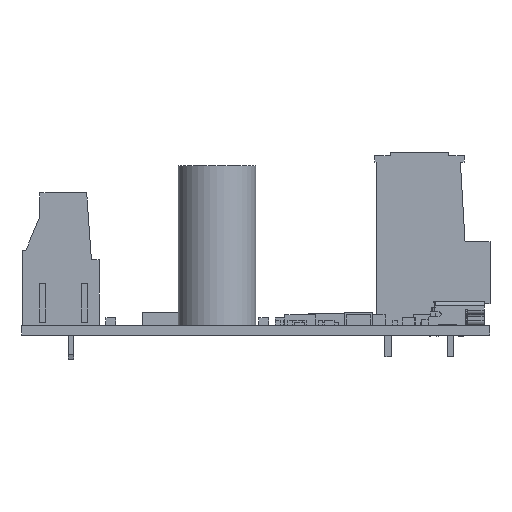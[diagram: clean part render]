
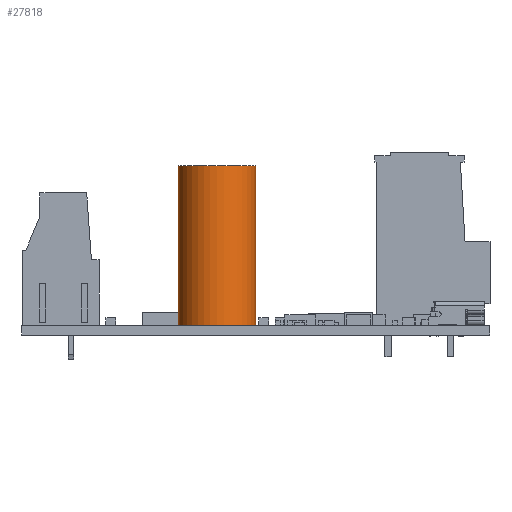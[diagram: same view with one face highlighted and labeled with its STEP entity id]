
A CAD part, left-side view. The second image highlights one B-rep face of the part: STEP entity #27818.
In plain terms, the highlighted cylindrical face has radius 6.35 mm (diameter 12.7 mm), a full revolution.
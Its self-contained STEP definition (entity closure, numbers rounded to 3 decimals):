
#27818 = ADVANCED_FACE('',(#27819),#27833,.T.);
#27819 = FACE_BOUND('',#27820,.T.);
#27820 = EDGE_LOOP('',(#27821,#27851,#27881,#27882));
#27821 = ORIENTED_EDGE('',*,*,#27822,.F.);
#27822 = EDGE_CURVE('',#27823,#27825,#27827,.T.);
#27823 = VERTEX_POINT('',#27824);
#27824 = CARTESIAN_POINT('',(6.35,0.,0.));
#27825 = VERTEX_POINT('',#27826);
#27826 = CARTESIAN_POINT('',(6.35,0.,26.06));
#27827 = SEAM_CURVE('',#27828,(#27832,#27844),.PCURVE_S1.);
#27828 = LINE('',#27829,#27830);
#27829 = CARTESIAN_POINT('',(6.35,0.,0.));
#27830 = VECTOR('',#27831,1.);
#27831 = DIRECTION('',(0.,0.,1.));
#27832 = PCURVE('',#27833,#27838);
#27833 = CYLINDRICAL_SURFACE('',#27834,6.35);
#27834 = AXIS2_PLACEMENT_3D('',#27835,#27836,#27837);
#27835 = CARTESIAN_POINT('',(0.,0.,0.));
#27836 = DIRECTION('',(0.,0.,-1.));
#27837 = DIRECTION('',(1.,0.,0.));
#27838 = DEFINITIONAL_REPRESENTATION('',(#27839),#27843);
#27839 = LINE('',#27840,#27841);
#27840 = CARTESIAN_POINT('',(6.283,0.));
#27841 = VECTOR('',#27842,1.);
#27842 = DIRECTION('',(0.,-1.));
#27843 = ( GEOMETRIC_REPRESENTATION_CONTEXT(2) 
PARAMETRIC_REPRESENTATION_CONTEXT() REPRESENTATION_CONTEXT('2D SPACE',''
  ) );
#27844 = PCURVE('',#27833,#27845);
#27845 = DEFINITIONAL_REPRESENTATION('',(#27846),#27850);
#27846 = LINE('',#27847,#27848);
#27847 = CARTESIAN_POINT('',(0.,0.));
#27848 = VECTOR('',#27849,1.);
#27849 = DIRECTION('',(0.,-1.));
#27850 = ( GEOMETRIC_REPRESENTATION_CONTEXT(2) 
PARAMETRIC_REPRESENTATION_CONTEXT() REPRESENTATION_CONTEXT('2D SPACE',''
  ) );
#27851 = ORIENTED_EDGE('',*,*,#27852,.T.);
#27852 = EDGE_CURVE('',#27823,#27823,#27853,.T.);
#27853 = SURFACE_CURVE('',#27854,(#27859,#27865),.PCURVE_S1.);
#27854 = CIRCLE('',#27855,6.35);
#27855 = AXIS2_PLACEMENT_3D('',#27856,#27857,#27858);
#27856 = CARTESIAN_POINT('',(0.,0.,0.));
#27857 = DIRECTION('',(0.,0.,1.));
#27858 = DIRECTION('',(1.,0.,0.));
#27859 = PCURVE('',#27833,#27860);
#27860 = DEFINITIONAL_REPRESENTATION('',(#27861),#27864);
#27861 = B_SPLINE_CURVE_WITH_KNOTS('',1,(#27862,#27863),.UNSPECIFIED.,
  .F.,.F.,(2,2),(0.,6.283),.PIECEWISE_BEZIER_KNOTS.);
#27862 = CARTESIAN_POINT('',(6.283,0.));
#27863 = CARTESIAN_POINT('',(0.,0.));
#27864 = ( GEOMETRIC_REPRESENTATION_CONTEXT(2) 
PARAMETRIC_REPRESENTATION_CONTEXT() REPRESENTATION_CONTEXT('2D SPACE',''
  ) );
#27865 = PCURVE('',#27866,#27871);
#27866 = PLANE('',#27867);
#27867 = AXIS2_PLACEMENT_3D('',#27868,#27869,#27870);
#27868 = CARTESIAN_POINT('',(6.35,0.,0.));
#27869 = DIRECTION('',(0.,0.,-1.));
#27870 = DIRECTION('',(-1.,0.,0.));
#27871 = DEFINITIONAL_REPRESENTATION('',(#27872),#27880);
#27872 = ( BOUNDED_CURVE() B_SPLINE_CURVE(2,(#27873,#27874,#27875,#27876
    ,#27877,#27878,#27879),.UNSPECIFIED.,.F.,.F.) 
B_SPLINE_CURVE_WITH_KNOTS((1,2,2,2,2,1),(-2.094,0.,
    2.094,4.189,6.283,8.378),
.UNSPECIFIED.) CURVE() GEOMETRIC_REPRESENTATION_ITEM() 
RATIONAL_B_SPLINE_CURVE((1.,0.5,1.,0.5,1.,0.5,1.)) REPRESENTATION_ITEM(
  '') );
#27873 = CARTESIAN_POINT('',(0.,0.));
#27874 = CARTESIAN_POINT('',(0.,10.999));
#27875 = CARTESIAN_POINT('',(9.525,5.499));
#27876 = CARTESIAN_POINT('',(19.05,0.));
#27877 = CARTESIAN_POINT('',(9.525,-5.499));
#27878 = CARTESIAN_POINT('',(0.,-10.999));
#27879 = CARTESIAN_POINT('',(0.,0.));
#27880 = ( GEOMETRIC_REPRESENTATION_CONTEXT(2) 
PARAMETRIC_REPRESENTATION_CONTEXT() REPRESENTATION_CONTEXT('2D SPACE',''
  ) );
#27881 = ORIENTED_EDGE('',*,*,#27822,.T.);
#27882 = ORIENTED_EDGE('',*,*,#27883,.F.);
#27883 = EDGE_CURVE('',#27825,#27825,#27884,.T.);
#27884 = SURFACE_CURVE('',#27885,(#27890,#27896),.PCURVE_S1.);
#27885 = CIRCLE('',#27886,6.35);
#27886 = AXIS2_PLACEMENT_3D('',#27887,#27888,#27889);
#27887 = CARTESIAN_POINT('',(0.,0.,26.06));
#27888 = DIRECTION('',(0.,0.,1.));
#27889 = DIRECTION('',(1.,0.,0.));
#27890 = PCURVE('',#27833,#27891);
#27891 = DEFINITIONAL_REPRESENTATION('',(#27892),#27895);
#27892 = B_SPLINE_CURVE_WITH_KNOTS('',1,(#27893,#27894),.UNSPECIFIED.,
  .F.,.F.,(2,2),(0.,6.283),.PIECEWISE_BEZIER_KNOTS.);
#27893 = CARTESIAN_POINT('',(6.283,-26.06));
#27894 = CARTESIAN_POINT('',(0.,-26.06));
#27895 = ( GEOMETRIC_REPRESENTATION_CONTEXT(2) 
PARAMETRIC_REPRESENTATION_CONTEXT() REPRESENTATION_CONTEXT('2D SPACE',''
  ) );
#27896 = PCURVE('',#27897,#27902);
#27897 = PLANE('',#27898);
#27898 = AXIS2_PLACEMENT_3D('',#27899,#27900,#27901);
#27899 = CARTESIAN_POINT('',(6.35,0.,26.06));
#27900 = DIRECTION('',(0.,0.,-1.));
#27901 = DIRECTION('',(-1.,0.,0.));
#27902 = DEFINITIONAL_REPRESENTATION('',(#27903),#27911);
#27903 = ( BOUNDED_CURVE() B_SPLINE_CURVE(2,(#27904,#27905,#27906,#27907
    ,#27908,#27909,#27910),.UNSPECIFIED.,.F.,.F.) 
B_SPLINE_CURVE_WITH_KNOTS((1,2,2,2,2,1),(-2.094,0.,
    2.094,4.189,6.283,8.378),
.UNSPECIFIED.) CURVE() GEOMETRIC_REPRESENTATION_ITEM() 
RATIONAL_B_SPLINE_CURVE((1.,0.5,1.,0.5,1.,0.5,1.)) REPRESENTATION_ITEM(
  '') );
#27904 = CARTESIAN_POINT('',(0.,0.));
#27905 = CARTESIAN_POINT('',(0.,10.999));
#27906 = CARTESIAN_POINT('',(9.525,5.499));
#27907 = CARTESIAN_POINT('',(19.05,0.));
#27908 = CARTESIAN_POINT('',(9.525,-5.499));
#27909 = CARTESIAN_POINT('',(0.,-10.999));
#27910 = CARTESIAN_POINT('',(0.,0.));
#27911 = ( GEOMETRIC_REPRESENTATION_CONTEXT(2) 
PARAMETRIC_REPRESENTATION_CONTEXT() REPRESENTATION_CONTEXT('2D SPACE',''
  ) );
